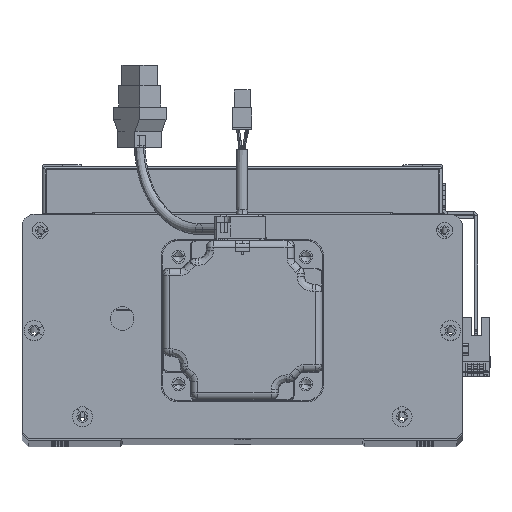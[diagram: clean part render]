
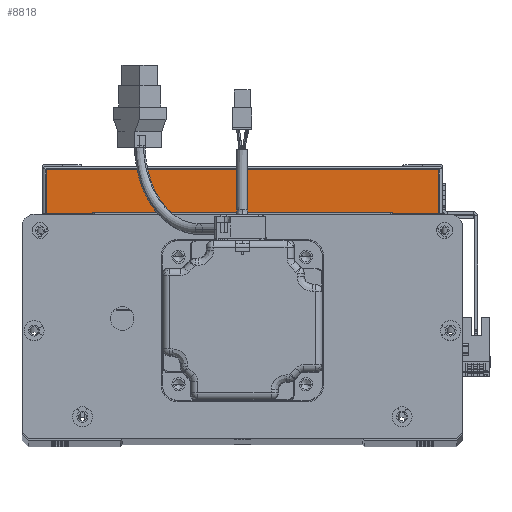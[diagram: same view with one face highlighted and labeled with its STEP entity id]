
A CAD part, top view. The second image highlights one B-rep face of the part: STEP entity #8818.
In plain terms, the highlighted planar face has unit normal (0, 0, 1) as drawn and (1, 0, 0) by its records, which use the part's own axes.
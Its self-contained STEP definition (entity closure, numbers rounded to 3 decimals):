
#1451 = DIRECTION ( 'NONE',  ( 0., 1., 0. ) ) ;
#4213 = AXIS2_PLACEMENT_3D ( 'NONE', #43942, #22432, #33968 ) ;
#4691 = ORIENTED_EDGE ( 'NONE', *, *, #51007, .T. ) ;
#7215 = VECTOR ( 'NONE', #57182, 1000. ) ;
#8818 = ADVANCED_FACE ( 'NONE', ( #19618 ), #49138, .F. ) ;
#14210 = ORIENTED_EDGE ( 'NONE', *, *, #54401, .T. ) ;
#15273 = ORIENTED_EDGE ( 'NONE', *, *, #34843, .T. ) ;
#16267 = EDGE_LOOP ( 'NONE', ( #4691, #17333, #14210, #15273 ) ) ;
#16831 = LINE ( 'NONE', #23187, #42127 ) ;
#17333 = ORIENTED_EDGE ( 'NONE', *, *, #24896, .T. ) ;
#19207 = VECTOR ( 'NONE', #28261, 1000. ) ;
#19402 = CARTESIAN_POINT ( 'NONE',  ( 150., 23.5, 98. ) ) ;
#19618 = FACE_OUTER_BOUND ( 'NONE', #16267, .T. ) ;
#22164 = CARTESIAN_POINT ( 'NONE',  ( 150., 0., -100. ) ) ;
#22432 = DIRECTION ( 'NONE',  ( -1., 0., 0. ) ) ;
#22934 = VECTOR ( 'NONE', #56687, 1000. ) ;
#23187 = CARTESIAN_POINT ( 'NONE',  ( 150., 23.5, -98. ) ) ;
#24896 = EDGE_CURVE ( 'NONE', #25533, #69865, #44114, .T. ) ;
#25533 = VERTEX_POINT ( 'NONE', #68102 ) ;
#27294 = CARTESIAN_POINT ( 'NONE',  ( 150., 22.5, 98. ) ) ;
#27613 = LINE ( 'NONE', #22164, #19207 ) ;
#28261 = DIRECTION ( 'NONE',  ( 0., 0., -1. ) ) ;
#29487 = CARTESIAN_POINT ( 'NONE',  ( 150., 22.5, 98. ) ) ;
#33968 = DIRECTION ( 'NONE',  ( 0., 0., 1. ) ) ;
#34843 = EDGE_CURVE ( 'NONE', #39935, #45021, #27613, .T. ) ;
#39935 = VERTEX_POINT ( 'NONE', #49604 ) ;
#41829 = LINE ( 'NONE', #19402, #7215 ) ;
#42127 = VECTOR ( 'NONE', #1451, 1000. ) ;
#43942 = CARTESIAN_POINT ( 'NONE',  ( 150., 23.5, -100. ) ) ;
#44114 = LINE ( 'NONE', #29487, #22934 ) ;
#45021 = VERTEX_POINT ( 'NONE', #67210 ) ;
#49138 = PLANE ( 'NONE',  #4213 ) ;
#49604 = CARTESIAN_POINT ( 'NONE',  ( 150., 0., 98. ) ) ;
#51007 = EDGE_CURVE ( 'NONE', #45021, #25533, #16831, .T. ) ;
#54401 = EDGE_CURVE ( 'NONE', #69865, #39935, #41829, .T. ) ;
#56687 = DIRECTION ( 'NONE',  ( 0., 0., 1. ) ) ;
#57182 = DIRECTION ( 'NONE',  ( 0., -1., 0. ) ) ;
#67210 = CARTESIAN_POINT ( 'NONE',  ( 150., 0., -98. ) ) ;
#68102 = CARTESIAN_POINT ( 'NONE',  ( 150., 22.5, -98. ) ) ;
#69865 = VERTEX_POINT ( 'NONE', #27294 ) ;
